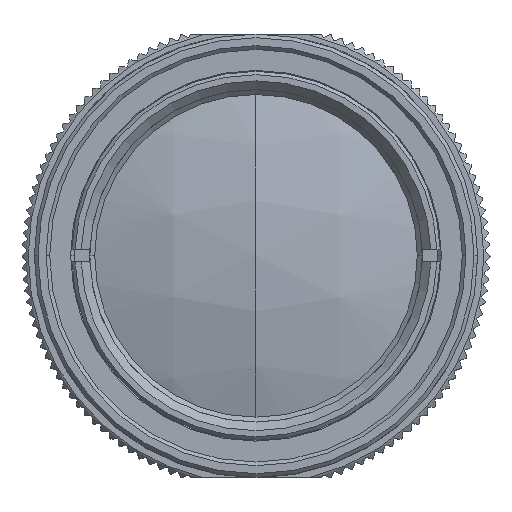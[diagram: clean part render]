
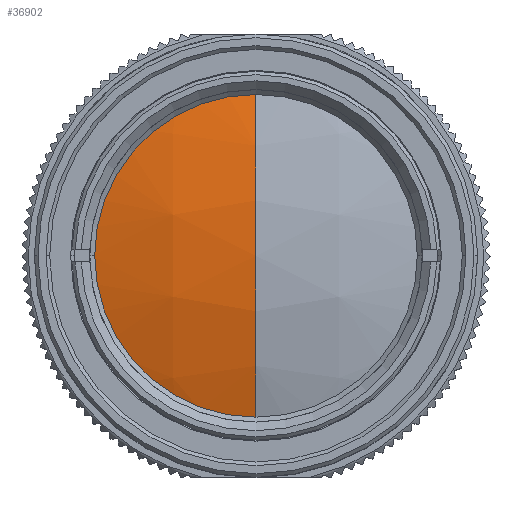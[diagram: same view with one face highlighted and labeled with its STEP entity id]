
A CAD part, top view. The second image highlights one B-rep face of the part: STEP entity #36902.
In plain terms, the highlighted spherical face has radius 43.42 mm.
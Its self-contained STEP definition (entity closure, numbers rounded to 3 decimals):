
#238 = CARTESIAN_POINT ( 'NONE',  ( 0., 0., 21.776 ) ) ;
#609 = CARTESIAN_POINT ( 'NONE',  ( 0., 0., -19.56 ) ) ;
#3386 = DIRECTION ( 'NONE',  ( -1., 0., 0. ) ) ;
#3614 = VERTEX_POINT ( 'NONE', #35187 ) ;
#3737 = CARTESIAN_POINT ( 'NONE',  ( 0., -13.29, 21.776 ) ) ;
#6139 = EDGE_CURVE ( 'NONE', #33863, #33469, #25113, .T. ) ;
#6931 = CARTESIAN_POINT ( 'NONE',  ( -13.29, 0., 21.776 ) ) ;
#11302 = VERTEX_POINT ( 'NONE', #3737 ) ;
#11514 = ORIENTED_EDGE ( 'NONE', *, *, #59038, .T. ) ;
#17767 = FACE_OUTER_BOUND ( 'NONE', #24077, .T. ) ;
#19473 = CIRCLE ( 'NONE', #41870, 43.42 ) ;
#21328 = DIRECTION ( 'NONE',  ( 1., 0., 0. ) ) ;
#22763 = SPHERICAL_SURFACE ( 'NONE', #63324, 43.42 ) ;
#23717 = DIRECTION ( 'NONE',  ( 0., -1., 0. ) ) ;
#24042 = CARTESIAN_POINT ( 'NONE',  ( 0., 0., -19.56 ) ) ;
#24077 = EDGE_LOOP ( 'NONE', ( #31630, #11514, #41695, #38823 ) ) ;
#25113 = CIRCLE ( 'NONE', #64523, 13.29 ) ;
#30032 = DIRECTION ( 'NONE',  ( 0., 0., -1. ) ) ;
#31630 = ORIENTED_EDGE ( 'NONE', *, *, #39998, .F. ) ;
#33469 = VERTEX_POINT ( 'NONE', #57466 ) ;
#33863 = VERTEX_POINT ( 'NONE', #6931 ) ;
#35187 = CARTESIAN_POINT ( 'NONE',  ( 0., 0., 23.86 ) ) ;
#36695 = CARTESIAN_POINT ( 'NONE',  ( 0., 0., 21.776 ) ) ;
#36828 = DIRECTION ( 'NONE',  ( -1., 0., 0. ) ) ;
#36902 = ADVANCED_FACE ( 'NONE', ( #17767 ), #22763, .T. ) ;
#37358 = CIRCLE ( 'NONE', #60753, 43.42 ) ;
#38823 = ORIENTED_EDGE ( 'NONE', *, *, #6139, .F. ) ;
#39749 = AXIS2_PLACEMENT_3D ( 'NONE', #238, #60645, #56302 ) ;
#39998 = EDGE_CURVE ( 'NONE', #11302, #33863, #50367, .T. ) ;
#41695 = ORIENTED_EDGE ( 'NONE', *, *, #44358, .F. ) ;
#41870 = AXIS2_PLACEMENT_3D ( 'NONE', #609, #21328, #30032 ) ;
#44358 = EDGE_CURVE ( 'NONE', #33469, #3614, #19473, .T. ) ;
#50367 = CIRCLE ( 'NONE', #39749, 13.29 ) ;
#52000 = DIRECTION ( 'NONE',  ( 0., 0., -1. ) ) ;
#56302 = DIRECTION ( 'NONE',  ( -1., 0., 0. ) ) ;
#57466 = CARTESIAN_POINT ( 'NONE',  ( 0., 13.29, 21.776 ) ) ;
#57471 = DIRECTION ( 'NONE',  ( 0., 1., 0. ) ) ;
#58110 = CARTESIAN_POINT ( 'NONE',  ( 0., 0., -19.56 ) ) ;
#59038 = EDGE_CURVE ( 'NONE', #11302, #3614, #37358, .T. ) ;
#60645 = DIRECTION ( 'NONE',  ( 0., 0., -1. ) ) ;
#60753 = AXIS2_PLACEMENT_3D ( 'NONE', #24042, #3386, #23717 ) ;
#62342 = DIRECTION ( 'NONE',  ( -1., 0., 0. ) ) ;
#63324 = AXIS2_PLACEMENT_3D ( 'NONE', #58110, #36828, #57471 ) ;
#64523 = AXIS2_PLACEMENT_3D ( 'NONE', #36695, #52000, #62342 ) ;
